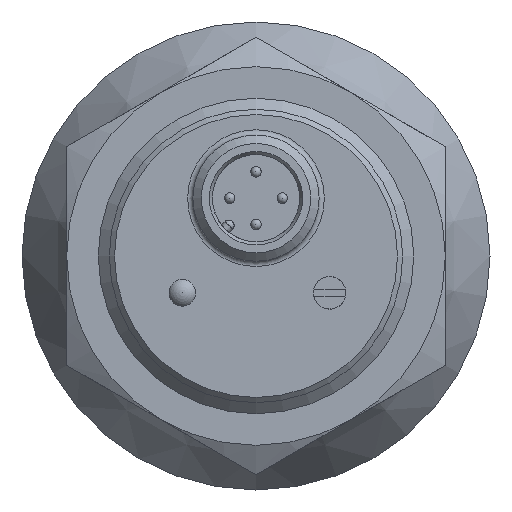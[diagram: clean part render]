
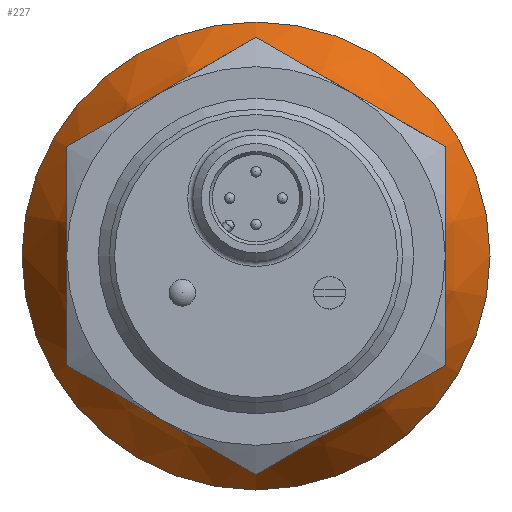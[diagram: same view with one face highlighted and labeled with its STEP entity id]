
A CAD part, left-side view. The second image highlights one B-rep face of the part: STEP entity #227.
In plain terms, the highlighted conical face has half-angle 30 degrees and reference radius 16.015 mm.
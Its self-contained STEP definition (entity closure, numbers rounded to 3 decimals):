
#227 = ADVANCED_FACE( '', ( #373, #374 ), #375, .T. );
#373 = FACE_OUTER_BOUND( '', #551, .T. );
#374 = FACE_BOUND( '', #552, .T. );
#375 = CONICAL_SURFACE( '', #553, 16.015, 0.524 );
#551 = EDGE_LOOP( '', ( #939 ) );
#552 = EDGE_LOOP( '', ( #940 ) );
#553 = AXIS2_PLACEMENT_3D( '', #941, #942, #943 );
#939 = ORIENTED_EDGE( '', *, *, #1161, .T. );
#940 = ORIENTED_EDGE( '', *, *, #1162, .F. );
#941 = CARTESIAN_POINT( '', ( -25., 0., 0. ) );
#942 = DIRECTION( '', ( 1., 0., 0. ) );
#943 = DIRECTION( '', ( 0., 0., -1. ) );
#1161 = EDGE_CURVE( '', #1355, #1355, #1356, .T. );
#1162 = EDGE_CURVE( '', #1357, #1357, #1358, .T. );
#1355 = VERTEX_POINT( '', #1760 );
#1356 = CIRCLE( '', #1761, 22.25 );
#1357 = VERTEX_POINT( '', #1762 );
#1358 = CIRCLE( '', #1763, 16.015 );
#1760 = CARTESIAN_POINT( '', ( -14.2, 0., 22.25 ) );
#1761 = AXIS2_PLACEMENT_3D( '', #1980, #1981, #1982 );
#1762 = CARTESIAN_POINT( '', ( -25., 0., 16.015 ) );
#1763 = AXIS2_PLACEMENT_3D( '', #1983, #1984, #1985 );
#1980 = CARTESIAN_POINT( '', ( -14.2, 0., 0. ) );
#1981 = DIRECTION( '', ( -1., 0., 0. ) );
#1982 = DIRECTION( '', ( 0., 0., 1. ) );
#1983 = CARTESIAN_POINT( '', ( -25., 0., 0. ) );
#1984 = DIRECTION( '', ( -1., 0., 0. ) );
#1985 = DIRECTION( '', ( 0., 0., 1. ) );
